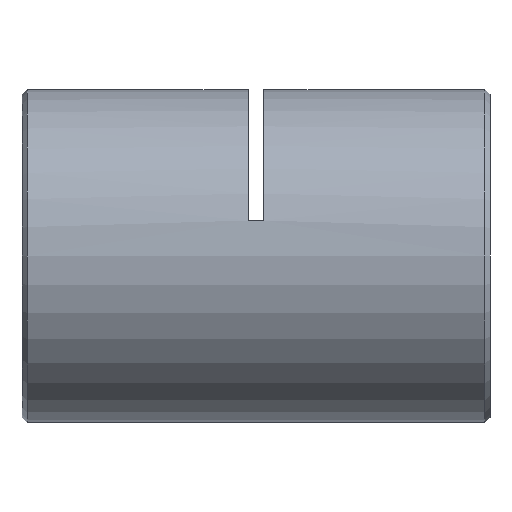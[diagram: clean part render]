
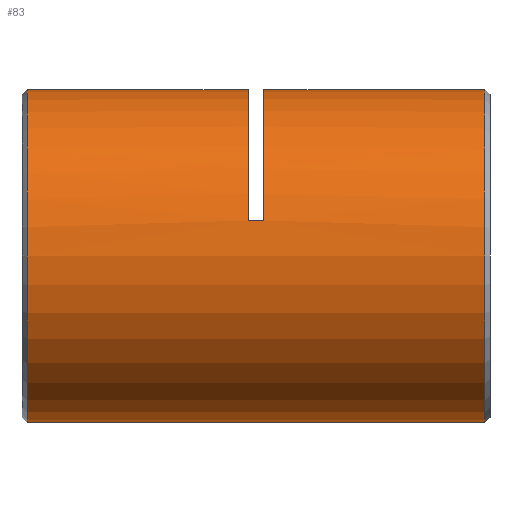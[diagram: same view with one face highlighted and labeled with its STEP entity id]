
A CAD part, left-side view. The second image highlights one B-rep face of the part: STEP entity #83.
In plain terms, the highlighted cylindrical face has radius 16 mm (diameter 32 mm), a partial arc.
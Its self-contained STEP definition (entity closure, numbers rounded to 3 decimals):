
#83 = ADVANCED_FACE ( 'NONE', ( #5548 ), #5585, .T. ) ;
#134 = VECTOR ( 'NONE', #5442, 1000. ) ;
#304 = VECTOR ( 'NONE', #3421, 1000. ) ;
#425 = EDGE_CURVE ( 'NONE', #2428, #2765, #1010, .T. ) ;
#542 = AXIS2_PLACEMENT_3D ( 'NONE', #5083, #4961, #3588 ) ;
#668 = ORIENTED_EDGE ( 'NONE', *, *, #4549, .T. ) ;
#683 = EDGE_CURVE ( 'NONE', #3829, #2765, #5826, .T. ) ;
#699 = CARTESIAN_POINT ( 'NONE',  ( -15.632, 23.5, 3.413 ) ) ;
#760 = CARTESIAN_POINT ( 'NONE',  ( 0., 0.75, 0. ) ) ;
#794 = AXIS2_PLACEMENT_3D ( 'NONE', #760, #2712, #4142 ) ;
#814 = LINE ( 'NONE', #5788, #134 ) ;
#855 = EDGE_CURVE ( 'NONE', #5549, #1572, #1464, .T. ) ;
#961 = DIRECTION ( 'NONE',  ( 0., 1., 0. ) ) ;
#1010 = CIRCLE ( 'NONE', #3221, 16. ) ;
#1230 = CARTESIAN_POINT ( 'NONE',  ( 0., 0.75, -16. ) ) ;
#1321 = CARTESIAN_POINT ( 'NONE',  ( 0., 44.75, 16. ) ) ;
#1439 = LINE ( 'NONE', #3350, #4141 ) ;
#1440 = CARTESIAN_POINT ( 'NONE',  ( 0., 0., 16. ) ) ;
#1464 = CIRCLE ( 'NONE', #2263, 16. ) ;
#1572 = VERTEX_POINT ( 'NONE', #2413 ) ;
#1757 = ORIENTED_EDGE ( 'NONE', *, *, #1812, .T. ) ;
#1812 = EDGE_CURVE ( 'NONE', #5287, #3829, #2794, .T. ) ;
#1975 = CARTESIAN_POINT ( 'NONE',  ( 0., 22., 0. ) ) ;
#2181 = ORIENTED_EDGE ( 'NONE', *, *, #5926, .T. ) ;
#2263 = AXIS2_PLACEMENT_3D ( 'NONE', #2599, #5918, #4946 ) ;
#2413 = CARTESIAN_POINT ( 'NONE',  ( 0., 44.75, -16. ) ) ;
#2428 = VERTEX_POINT ( 'NONE', #5475 ) ;
#2435 = EDGE_LOOP ( 'NONE', ( #4303, #1757, #3749, #4585, #2181, #5013, #668, #3630 ) ) ;
#2528 = CARTESIAN_POINT ( 'NONE',  ( 0., 23.5, 16. ) ) ;
#2599 = CARTESIAN_POINT ( 'NONE',  ( 0., 44.75, 0. ) ) ;
#2704 = CARTESIAN_POINT ( 'NONE',  ( 0., 23.5, 0. ) ) ;
#2712 = DIRECTION ( 'NONE',  ( 0., 1., 0. ) ) ;
#2765 = VERTEX_POINT ( 'NONE', #2865 ) ;
#2794 = CIRCLE ( 'NONE', #794, 16. ) ;
#2865 = CARTESIAN_POINT ( 'NONE',  ( 0., 22., 16. ) ) ;
#2946 = VERTEX_POINT ( 'NONE', #2528 ) ;
#3221 = AXIS2_PLACEMENT_3D ( 'NONE', #1975, #4328, #5868 ) ;
#3350 = CARTESIAN_POINT ( 'NONE',  ( -15.632, 22.75, 3.413 ) ) ;
#3352 = DIRECTION ( 'NONE',  ( 0., 1., 0. ) ) ;
#3421 = DIRECTION ( 'NONE',  ( 0., 1., 0. ) ) ;
#3588 = DIRECTION ( 'NONE',  ( 0., 0., 1. ) ) ;
#3630 = ORIENTED_EDGE ( 'NONE', *, *, #855, .T. ) ;
#3749 = ORIENTED_EDGE ( 'NONE', *, *, #683, .T. ) ;
#3829 = VERTEX_POINT ( 'NONE', #5149 ) ;
#3903 = CIRCLE ( 'NONE', #5315, 16. ) ;
#4141 = VECTOR ( 'NONE', #961, 1000. ) ;
#4142 = DIRECTION ( 'NONE',  ( 0., 0., 1. ) ) ;
#4260 = VECTOR ( 'NONE', #3352, 1000. ) ;
#4303 = ORIENTED_EDGE ( 'NONE', *, *, #6000, .F. ) ;
#4327 = LINE ( 'NONE', #5298, #304 ) ;
#4328 = DIRECTION ( 'NONE',  ( 0., 1., 0. ) ) ;
#4549 = EDGE_CURVE ( 'NONE', #2946, #5549, #4327, .T. ) ;
#4585 = ORIENTED_EDGE ( 'NONE', *, *, #425, .F. ) ;
#4619 = DIRECTION ( 'NONE',  ( 0., 1., 0. ) ) ;
#4946 = DIRECTION ( 'NONE',  ( 0., 0., -1. ) ) ;
#4961 = DIRECTION ( 'NONE',  ( 0., 1., 0. ) ) ;
#5013 = ORIENTED_EDGE ( 'NONE', *, *, #5498, .T. ) ;
#5083 = CARTESIAN_POINT ( 'NONE',  ( 0., 0., 0. ) ) ;
#5149 = CARTESIAN_POINT ( 'NONE',  ( 0., 0.75, 16. ) ) ;
#5287 = VERTEX_POINT ( 'NONE', #1230 ) ;
#5298 = CARTESIAN_POINT ( 'NONE',  ( 0., 0., 16. ) ) ;
#5315 = AXIS2_PLACEMENT_3D ( 'NONE', #2704, #4619, #5463 ) ;
#5442 = DIRECTION ( 'NONE',  ( 0., 1., 0. ) ) ;
#5463 = DIRECTION ( 'NONE',  ( 0., 0., 1. ) ) ;
#5475 = CARTESIAN_POINT ( 'NONE',  ( -15.632, 22., 3.413 ) ) ;
#5498 = EDGE_CURVE ( 'NONE', #5503, #2946, #3903, .T. ) ;
#5503 = VERTEX_POINT ( 'NONE', #699 ) ;
#5548 = FACE_OUTER_BOUND ( 'NONE', #2435, .T. ) ;
#5549 = VERTEX_POINT ( 'NONE', #1321 ) ;
#5585 = CYLINDRICAL_SURFACE ( 'NONE', #542, 16. ) ;
#5788 = CARTESIAN_POINT ( 'NONE',  ( 0., 0., -16. ) ) ;
#5826 = LINE ( 'NONE', #1440, #4260 ) ;
#5868 = DIRECTION ( 'NONE',  ( 0., 0., 1. ) ) ;
#5918 = DIRECTION ( 'NONE',  ( 0., -1., 0. ) ) ;
#5926 = EDGE_CURVE ( 'NONE', #2428, #5503, #1439, .T. ) ;
#6000 = EDGE_CURVE ( 'NONE', #5287, #1572, #814, .T. ) ;
